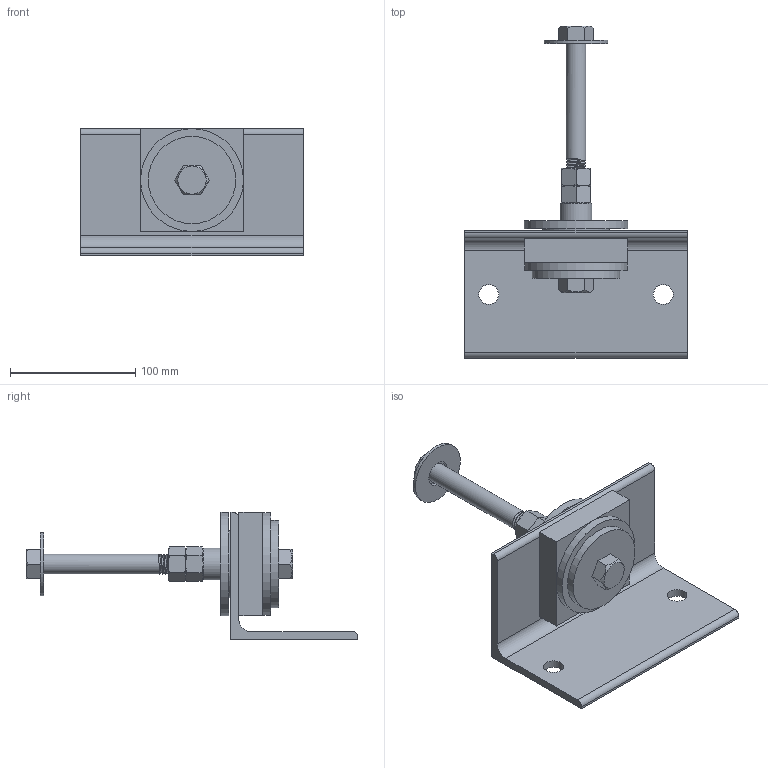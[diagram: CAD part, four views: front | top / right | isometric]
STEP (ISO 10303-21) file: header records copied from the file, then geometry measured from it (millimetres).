
FILE_DESCRIPTION((''),'2;1');
FILE_NAME('C:\2012_Work\Designs\Z-1225\Z-1225-500\A-31441 Z-1225-500.stp','2013-10-02T14:39:23',('KShiels'),(''),'Autodesk Inventor 2012','Autodesk Inventor 2012','');
FILE_SCHEMA(('AUTOMOTIVE_DESIGN { 1 0 10303 214 1 1 1 1 }'));
Length unit declared in the file: inch
Products named in the file (11): A-31441 Z-1225-500; A-21443 2.75 OD WASHER; A-31443 BUSHING; A-31443 TAPPED BUSHING; A-31442 ANGLE ASSY; A-31442 ANGLE PLATE; A-31442 ANGLE; Hex Nut - Inch 5/8 - 18; Plain Washer (Inch) 3/4 - Regular - Type B; A-31443 0.625 x 6in BOLT; A-31443 0.625 x 1in BOLT
Assembly tree (11 placements, depth 3):
  A-31441 Z-1225-500
    A-21443 2.75 OD WASHER
    A-31443 BUSHING
    A-31443 TAPPED BUSHING
    A-31442 ANGLE ASSY
      A-31442 ANGLE PLATE
      A-31442 ANGLE
    Hex Nut - Inch 5/8 - 18  x2
    Plain Washer (Inch) 3/4 - Regular - Type B
    A-31443 0.625 x 6in BOLT
    A-31443 0.625 x 1in BOLT
Bounding box: 177.8 x 265.43 x 101.6 mm (x, y, z)
Volume: 464792.8 mm3; surface area: 155549.7 mm2
Topology: 10 solids, 10 shells, 169 faces, 406 edges, 261 vertices
Faces by surface type: plane 67, cylinder 55, cone 37, bspline 10
Full cylindrical faces by diameter (mm): 14.351 x2, 15.875 x36, 16.669 x1, 20.625 x1, 25.4 x1, 40.939 x1, 50.8 x1, 53.639 x1, 55.563 x2, 69.85 x1, 82.214 x1, 82.55 x1
Entity records: 17216 total; most frequent: CARTESIAN_POINT 14595, DIRECTION 476, ORIENTED_EDGE 448, EDGE_CURVE 224, AXIS2_PLACEMENT_3D 195, VERTEX_POINT 155, EDGE_LOOP 155, FACE_OUTER_BOUND 112
